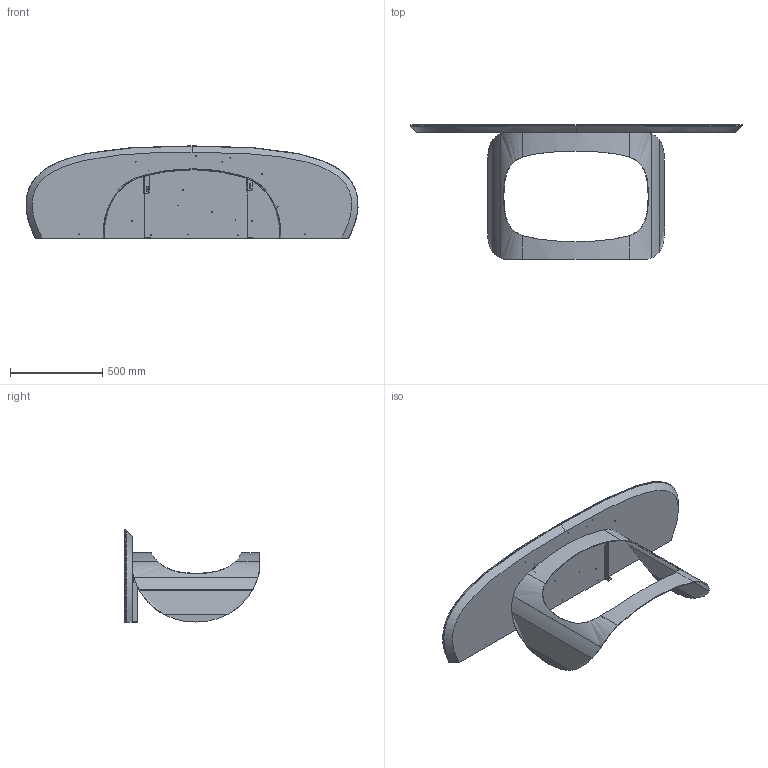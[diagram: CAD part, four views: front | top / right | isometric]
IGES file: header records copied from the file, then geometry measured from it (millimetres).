
Start section: SolidWorks IGES file using analytic representation for surfaces
Global section: file name: Y:\eforma\TECNICO\SOLIDWORKS\E-FORMA\3-CONSOLE\POLIFEMO CONSOLE\08 modelli 3D web\PO61C_Polifemo Console_180x50x73h_Ceramic Shaped.IGS; native system: SolidWorks 2022; preprocessor: SolidWorks 2022; author: eforma.tech; date: 240802.101828; units: millimetre
Bounding box: 1799.11 x 731 x 500.03 mm (x, y, z)
Volume: 33845851.5 mm3; surface area: 4466882.3 mm2
Topology: 7 solids, 7 shells, 289 faces, 754 edges, 475 vertices
Faces by surface type: revolution 155, plane 84, bspline 50
